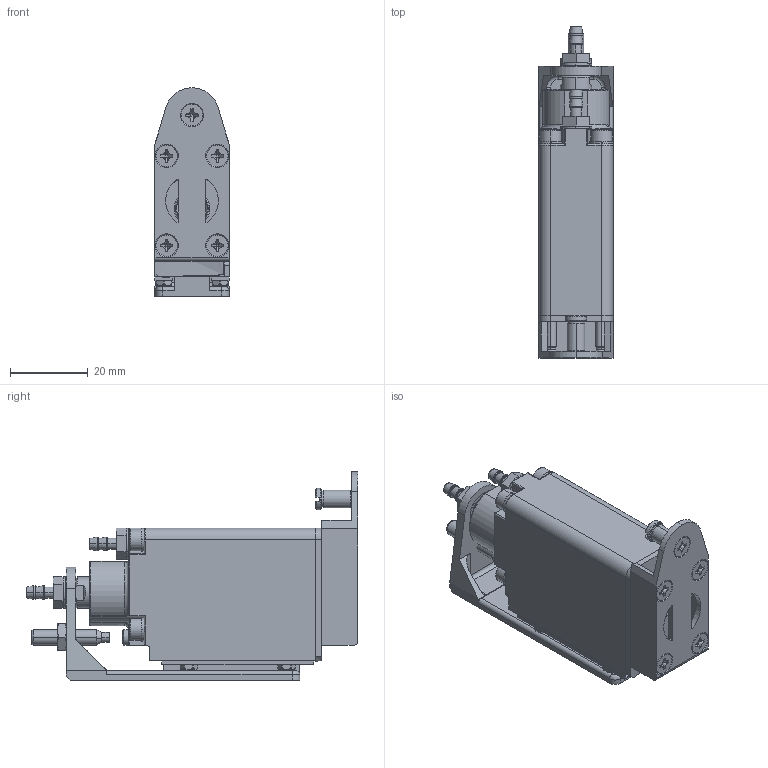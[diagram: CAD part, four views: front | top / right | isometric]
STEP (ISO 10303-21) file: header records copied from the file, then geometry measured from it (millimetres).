
FILE_DESCRIPTION (( 'STEP AP214' ), '1' );
FILE_NAME ('GT-NY03G.STEP', '2019-11-27T01:00:00', ( '微软用户' ), ( '微软中国' ), 'SwSTEP 2.0', 'SolidWorks 2016', '' );
FILE_SCHEMA (( 'AUTOMOTIVE_DESIGN' ));
Length unit declared in the file: millimetre
Products named in the file (1): GT-NY03G
Bounding box: 19 x 85.2 x 53.5 mm (x, y, z)
Surface area: 20485.6 mm2 (no closed solid volume)
Topology: 0 solids, 112 shells, 985 faces, 2652 edges, 1816 vertices
Faces by surface type: plane 434, cylinder 322, bspline 105, cone 80, torus 38, sphere 6
Entity records: 45846 total; most frequent: CARTESIAN_POINT 15240, ORIENTED_EDGE 4784, DIRECTION 4639, EDGE_CURVE 2628, VERTEX_POINT 1816, AXIS2_PLACEMENT_3D 1757, VECTOR 1125, LINE 1125
